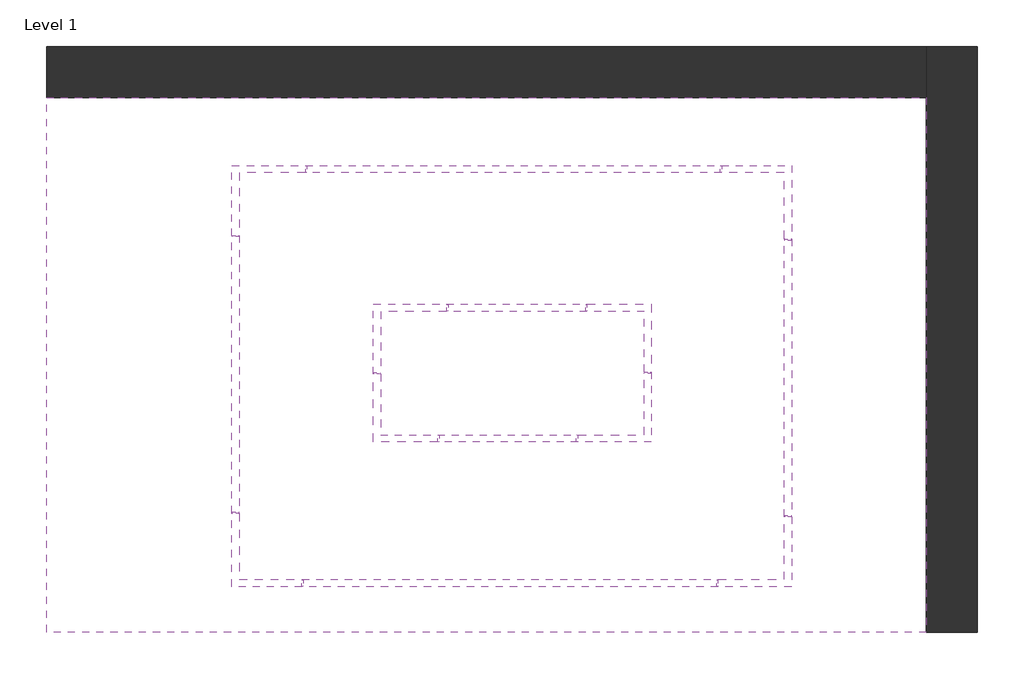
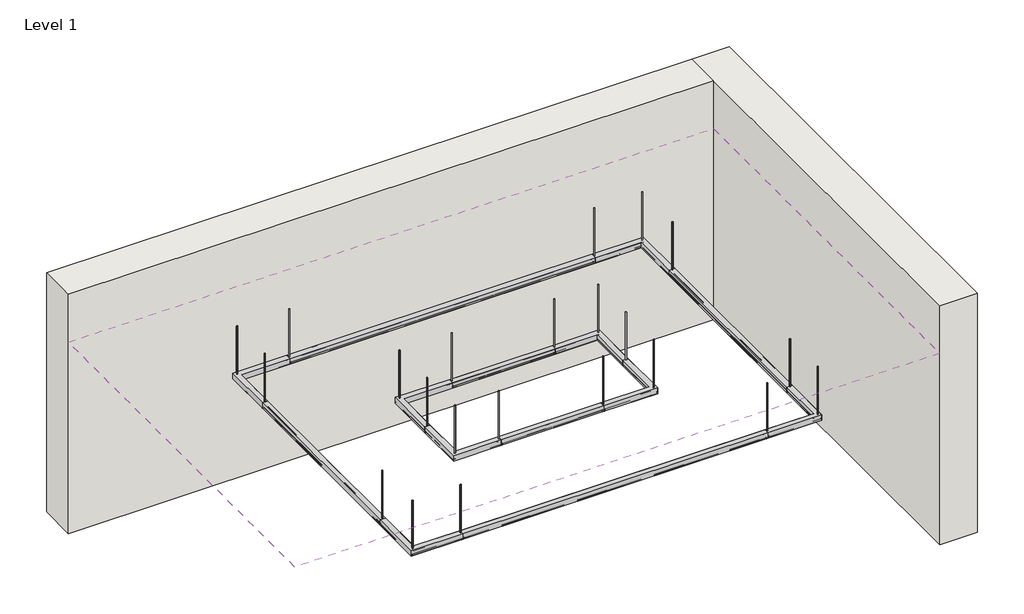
# One storey: 14 light fixtures, 2 walls, 1 covering.
"""IFC4 building model written with IfcOpenShell, lengths in millimetres."""

from ifc_helpers import new_model, si_unit, frame, origin, origin_with_axes, place, context, project, spatial, polyline, outline, extrude, faceted_brep, transform, mapped, element, save
from components import lighting_pendant_axis_extend_2_0f88a3bf, lighting_pendant_axis_extend_2_5fcf18b4, lighting_pendant_axis_extend_2_e98adb01, lighting_pendant_axis_extend_2_78eecb01, lighting_pendant_axis_extend_2_d7a891b9, lighting_pendant_axis_extend_2_d94316a9, lighting_pendant_axis_extend_2_corner_2x2_e182f400, lighting_pendant_axis_extend_2_corner_2x2_1b34fbd2, lighting_pendant_axis_extend_2_corner_2x2_7ed33a4c, lighting_pendant_axis_extend_2_corner_2x2_4e912d8c, lighting_pendant_axis_extend_2_corner_2x2_d5f9903d

model = new_model("IFC4")

# Units and contexts
model_context = context("Model", 3, world=origin())
ifc_project = project(units=[si_unit("LENGTHUNIT", "METRE", prefix="MILLI")], contexts=[model_context])

# Site, building, storey
site = spatial("IfcSite", under=ifc_project)
building = spatial("IfcBuilding", under=site)
storey = spatial("IfcBuildingStorey", under=building, Name="Level 1", Elevation=0.0)

# Covering
placement = place(None, origin())
element("IfcCovering", 1, ObjectType="2' x 4' ACT System", at=placement, inside=storey, context=model_context, shape_type="SweptSolid", body=[
    extrude(outline(polyline([(-4065.1843493, 6283.1270347), (3707.2156507, 6283.1270347), (3707.2156507, 1558.7270347), (-4065.1843493, 1558.7270347), (-4065.1843493, 6283.1270347)])), frame((0.0, 0.0, 2438.4), z_axis=(0.0, 0.0, 1.0), x_axis=(1.0, 0.0, 0.0)), (0.0, 0.0, 1.0), 57.15),
])

# Light fixtures
lighting_pendant_axis_extend_2_shape = lighting_pendant_axis_extend_2_0f88a3bf(model_context)
element("IfcLightFixture", 2, ObjectType="Lighting-Pendant-Axis-Extend_2 : EX2PD-900-80-35-SO-4", at=placement, inside=storey, context=model_context, shape_type="MappedRepresentation", body=[
    mapped(lighting_pendant_axis_extend_2_shape, transform((-2395.3302774, 3838.7390913, 2438.4), x_axis=(0.0, -1.0, 0.0), y_axis=(-1.0, 0.0, 0.0), z_axis=(0.0, 0.0, -1.0))),
])
lighting_pendant_axis_extend_2_2_shape = lighting_pendant_axis_extend_2_5fcf18b4(model_context)
element("IfcLightFixture", 3, ObjectType="Lighting-Pendant-Axis-Extend_2 : EX2PD-900-80-35-SO-4", at=placement, inside=storey, context=model_context, shape_type="MappedRepresentation", body=[
    mapped(lighting_pendant_axis_extend_2_2_shape, transform((61.3831226, 5653.8484913, 2438.4), x_axis=(1.0, 0.0, 0.0), y_axis=(0.0, -1.0, 0.0), z_axis=(0.0, 0.0, -1.0))),
])
lighting_pendant_axis_extend_2_3_shape = lighting_pendant_axis_extend_2_e98adb01(model_context)
element("IfcLightFixture", 4, ObjectType="Lighting-Pendant-Axis-Extend_2 : EX2PD-900-80-35-SO-4", at=placement, inside=storey, context=model_context, shape_type="MappedRepresentation", body=[
    mapped(lighting_pendant_axis_extend_2_3_shape, transform((2486.0925226, 3806.7350913, 2438.4), x_axis=(0.0, -1.0, 0.0), y_axis=(-1.0, 0.0, 0.0), z_axis=(0.0, 0.0, -1.0))),
])
lighting_pendant_axis_extend_2_4_shape = lighting_pendant_axis_extend_2_78eecb01(model_context)
element("IfcLightFixture", 5, ObjectType="Lighting-Pendant-Axis-Extend_2 : EX2PD-900-80-35-SO-4", at=placement, inside=storey, context=model_context, shape_type="MappedRepresentation", body=[
    mapped(lighting_pendant_axis_extend_2_4_shape, transform((29.3791226, 1991.6256913, 2438.4), x_axis=(1.0, 0.0, 0.0), y_axis=(0.0, -1.0, 0.0), z_axis=(0.0, 0.0, -1.0))),
])
lighting_pendant_axis_extend_2_5_shape = lighting_pendant_axis_extend_2_d7a891b9(model_context)
element("IfcLightFixture", 6, ObjectType="Lighting-Pendant-Axis-Extend_2 : EX2PD-900-80-35-SO-4", at=placement, inside=storey, context=model_context, shape_type="MappedRepresentation", body=[
    mapped(lighting_pendant_axis_extend_2_5_shape, transform((10.4055358, 3270.7931144, 2438.4), x_axis=(1.0, 0.0, 0.0), y_axis=(0.0, -1.0, 0.0), z_axis=(0.0, 0.0, -1.0))),
])
lighting_pendant_axis_extend_2_6_shape = lighting_pendant_axis_extend_2_d94316a9(model_context)
element("IfcLightFixture", 7, ObjectType="Lighting-Pendant-Axis-Extend_2 : EX2PD-900-80-35-SO-4", at=placement, inside=storey, context=model_context, shape_type="MappedRepresentation", body=[
    mapped(lighting_pendant_axis_extend_2_6_shape, transform((91.3725155, 4427.3395347, 2438.4), x_axis=(1.0, 0.0, 0.0), y_axis=(0.0, -1.0, 0.0), z_axis=(0.0, 0.0, -1.0))),
])
lighting_pendant_axis_extend_2_corner_2x2_shape = lighting_pendant_axis_extend_2_corner_2x2_e182f400(model_context)
element("IfcLightFixture", 8, ObjectType="Lighting-Pendant-Axis-Extend_2 - Corner : 2x2", at=placement, inside=storey, context=model_context, shape_type="MappedRepresentation", body=[
    mapped(lighting_pendant_axis_extend_2_corner_2x2_shape, transform((-2395.3302774, 2296.4256913, 2438.4), x_axis=(0.0, -1.0, 0.0), y_axis=(-1.0, 0.0, 0.0), z_axis=(0.0, 0.0, -1.0))),
])
element("IfcLightFixture", 9, ObjectType="Lighting-Pendant-Axis-Extend_2 - Corner : 2x2", at=placement, inside=storey, context=model_context, shape_type="MappedRepresentation", body=[
    mapped(lighting_pendant_axis_extend_2_corner_2x2_shape, transform((-2090.5302774, 5653.8484913, 2438.4), x_axis=(-1.0, 0.0, 0.0), y_axis=(0.0, 1.0, 0.0), z_axis=(0.0, 0.0, -1.0))),
])
element("IfcLightFixture", 10, ObjectType="Lighting-Pendant-Axis-Extend_2 - Corner : 2x2", at=placement, inside=storey, context=model_context, shape_type="MappedRepresentation", body=[
    mapped(lighting_pendant_axis_extend_2_corner_2x2_shape, transform((2486.0925226, 5349.0484913, 2438.4), x_axis=(0.0, 1.0, 0.0), y_axis=(1.0, 0.0, 0.0), z_axis=(0.0, 0.0, -1.0))),
])
lighting_pendant_axis_extend_2_corner_2x2_2_shape = lighting_pendant_axis_extend_2_corner_2x2_1b34fbd2(model_context)
element("IfcLightFixture", 11, ObjectType="Lighting-Pendant-Axis-Extend_2 - Corner : 2x2", at=placement, inside=storey, context=model_context, shape_type="MappedRepresentation", body=[
    mapped(lighting_pendant_axis_extend_2_corner_2x2_2_shape, transform((1247.9189358, 4147.0210245, 2438.4), x_axis=(0.0, 1.0, 0.0), y_axis=(1.0, 0.0, 0.0), z_axis=(0.0, 0.0, -1.0))),
])
element("IfcLightFixture", 12, ObjectType="Lighting-Pendant-Axis-Extend_2 - Corner : 2x2", at=placement, inside=storey, context=model_context, shape_type="MappedRepresentation", body=[
    mapped(lighting_pendant_axis_extend_2_corner_2x2_2_shape, transform((-1146.1408845, 3551.1116245, 2438.4), x_axis=(0.0, -1.0, 0.0), y_axis=(-1.0, 0.0, 0.0), z_axis=(0.0, 0.0, -1.0))),
])
lighting_pendant_axis_extend_2_corner_2x2_3_shape = lighting_pendant_axis_extend_2_corner_2x2_7ed33a4c(model_context)
element("IfcLightFixture", 13, ObjectType="Lighting-Pendant-Axis-Extend_2 - Corner : 2x2", at=placement, inside=storey, context=model_context, shape_type="MappedRepresentation", body=[
    mapped(lighting_pendant_axis_extend_2_corner_2x2_3_shape, transform((2181.2925226, 1991.6256913, 2438.4), x_axis=(1.0, 0.0, 0.0), y_axis=(0.0, -1.0, 0.0), z_axis=(0.0, 0.0, -1.0))),
])
lighting_pendant_axis_extend_2_corner_2x2_4_shape = lighting_pendant_axis_extend_2_corner_2x2_4e912d8c(model_context)
element("IfcLightFixture", 14, ObjectType="Lighting-Pendant-Axis-Extend_2 - Corner : 2x2", at=placement, inside=storey, context=model_context, shape_type="MappedRepresentation", body=[
    mapped(lighting_pendant_axis_extend_2_corner_2x2_4_shape, transform((-841.3408845, 4427.3395347, 2438.4), x_axis=(-1.0, 0.0, 0.0), y_axis=(0.0, 1.0, 0.0), z_axis=(0.0, 0.0, -1.0))),
])
lighting_pendant_axis_extend_2_corner_2x2_5_shape = lighting_pendant_axis_extend_2_corner_2x2_d5f9903d(model_context)
element("IfcLightFixture", 15, ObjectType="Lighting-Pendant-Axis-Extend_2 - Corner : 2x2", at=placement, inside=storey, context=model_context, shape_type="MappedRepresentation", body=[
    mapped(lighting_pendant_axis_extend_2_corner_2x2_5_shape, transform((943.1189358, 3270.7931144, 2438.4), x_axis=(1.0, 0.0, 0.0), y_axis=(0.0, -1.0, 0.0), z_axis=(0.0, 0.0, -1.0))),
])

# Walls
element("IfcWall", 16, ObjectType="Exterior - CMU on Mtl. Stud", at=placement, inside=storey, context=model_context, shape_type="Brep", body=[
    faceted_brep([(4160.9050226, 1558.7270347, 0.0), (4160.9050226, 6737.1520347, 0.0), (4160.9050226, 6737.1520347, 3048.0), (4160.9050226, 1558.7270347, 3048.0), (3706.8800226, 1558.7270347, 0.0), (3706.8800226, 1558.7270347, 3048.0), (3706.8800226, 6283.1270347, 3048.0), (3706.8800226, 6737.1520347, 3048.0), (3706.8800226, 6737.1520347, 0.0), (3706.8800226, 6283.1270347, 0.0)], [[[0, 1, 2, 3]], [[4, 5, 6, 7, 8, 9]], [[1, 0, 4, 9, 8]], [[3, 2, 7, 6, 5]], [[0, 3, 5, 4]], [[2, 1, 8, 7]]]),
])
element("IfcWall", 17, ObjectType="Exterior - CMU on Mtl. Stud", at=placement, inside=storey, context=model_context, shape_type="SweptSolid", body=[
    extrude(outline(polyline([(-4065.5199774, 6737.1520347), (3706.8800226, 6737.1520347), (3706.8800226, 6283.1270347), (-4065.5199774, 6283.1270347), (-4065.5199774, 6737.1520347)])), origin_with_axes(), (0.0, 0.0, 1.0), 3048.0),
])

save(model, "model.ifc")
